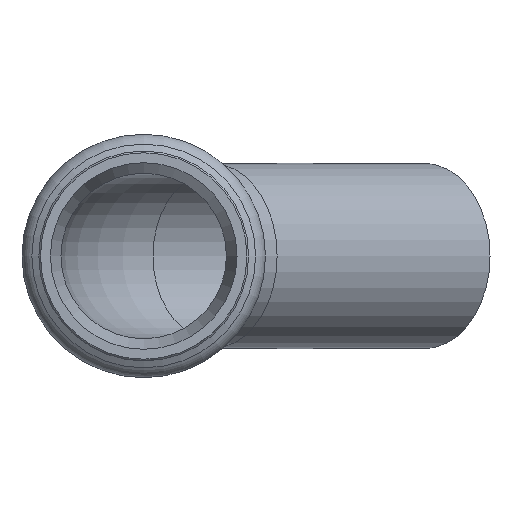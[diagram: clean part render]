
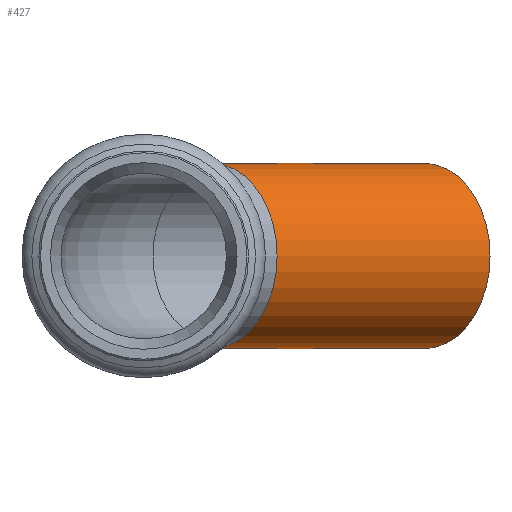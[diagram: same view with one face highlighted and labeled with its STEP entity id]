
A CAD part, left-side view. The second image highlights one B-rep face of the part: STEP entity #427.
In plain terms, the highlighted cylindrical face has radius 14 mm (diameter 28 mm), a full revolution.
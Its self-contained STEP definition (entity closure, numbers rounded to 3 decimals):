
#400=CARTESIAN_POINT('',(10.252,-10.251,0.0));
#401=DIRECTION('',(0.707,-0.707,0.0));
#402=DIRECTION('',(0.707,0.707,0.0));
#403=AXIS2_PLACEMENT_3D('',#400,#401,#402);
#404=CYLINDRICAL_SURFACE('',#403,14.);
#405=CARTESIAN_POINT('',(32.526,-52.324,0.));
#406=VERTEX_POINT('',#405);
#407=CARTESIAN_POINT('',(42.425,-42.425,0.0));
#408=DIRECTION('',(-0.707,0.707,0.0));
#409=DIRECTION('',(0.707,0.707,0.0));
#410=AXIS2_PLACEMENT_3D('',#407,#408,#409);
#411=CIRCLE('',#410,14.);
#412=EDGE_CURVE('',#406,#406,#411,.T.);
#413=ORIENTED_EDGE('',*,*,#412,.T.);
#414=EDGE_LOOP('',(#413));
#415=FACE_OUTER_BOUND('',#414,.T.);
#416=CARTESIAN_POINT('',(20.151,-0.352,0.));
#417=VERTEX_POINT('',#416);
#418=CARTESIAN_POINT('',(10.252,-10.251,0.0));
#419=DIRECTION('',(-0.707,0.707,0.0));
#420=DIRECTION('',(-0.707,-0.707,0.0));
#421=AXIS2_PLACEMENT_3D('',#418,#419,#420);
#422=CIRCLE('',#421,14.);
#423=EDGE_CURVE('',#417,#417,#422,.T.);
#424=ORIENTED_EDGE('',*,*,#423,.F.);
#425=EDGE_LOOP('',(#424));
#426=FACE_BOUND('',#425,.T.);
#427=ADVANCED_FACE('',(#415,#426),#404,.T.);
